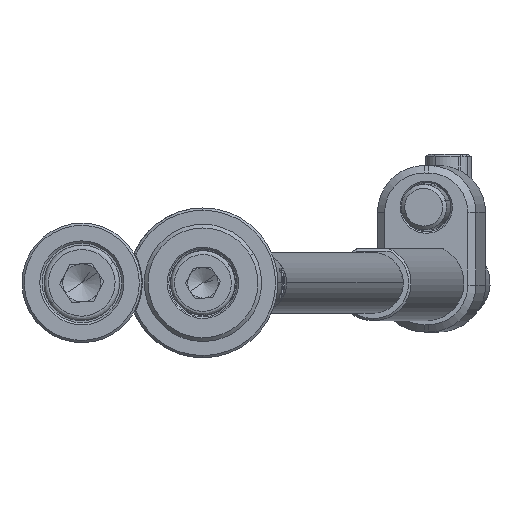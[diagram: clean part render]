
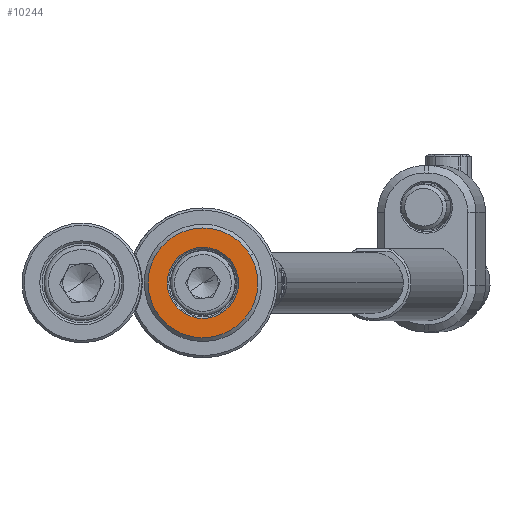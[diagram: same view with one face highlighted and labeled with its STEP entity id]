
A CAD part, front view. The second image highlights one B-rep face of the part: STEP entity #10244.
In plain terms, the highlighted planar face has unit normal (0, -1, 0).
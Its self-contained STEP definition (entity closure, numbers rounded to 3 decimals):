
#64 = ORIENTED_EDGE ( 'NONE', *, *, #7771, .T. ) ;
#124 = DIRECTION ( 'NONE',  ( -0.865, 0., -0.503 ) ) ;
#310 = CARTESIAN_POINT ( 'NONE',  ( 6.268, -4., 3.643 ) ) ;
#408 = DIRECTION ( 'NONE',  ( 0., 1., 0. ) ) ;
#848 = VERTEX_POINT ( 'NONE', #310 ) ;
#879 = DIRECTION ( 'NONE',  ( 0., -1., 0. ) ) ;
#1024 = ORIENTED_EDGE ( 'NONE', *, *, #6777, .T. ) ;
#1275 = DIRECTION ( 'NONE',  ( 0., -1., 0. ) ) ;
#1636 = CARTESIAN_POINT ( 'NONE',  ( 4.063, -4., 2.362 ) ) ;
#1667 = DIRECTION ( 'NONE',  ( -0.865, 0., -0.503 ) ) ;
#1732 = DIRECTION ( 'NONE',  ( 0., 1., 0. ) ) ;
#2550 = PLANE ( 'NONE',  #13818 ) ;
#2836 = DIRECTION ( 'NONE',  ( 0., 1., 0. ) ) ;
#3533 = FACE_OUTER_BOUND ( 'NONE', #8911, .T. ) ;
#3596 = AXIS2_PLACEMENT_3D ( 'NONE', #7095, #2836, #7170 ) ;
#4106 = CIRCLE ( 'NONE', #6167, 7.25 ) ;
#4526 = DIRECTION ( 'NONE',  ( -0.865, 0., -0.503 ) ) ;
#5126 = VERTEX_POINT ( 'NONE', #1636 ) ;
#6167 = AXIS2_PLACEMENT_3D ( 'NONE', #6947, #1275, #124 ) ;
#6777 = EDGE_CURVE ( 'NONE', #13548, #848, #8395, .T. ) ;
#6947 = CARTESIAN_POINT ( 'NONE',  ( 0., -4., 0. ) ) ;
#7071 = EDGE_CURVE ( 'NONE', #9311, #5126, #11481, .T. ) ;
#7095 = CARTESIAN_POINT ( 'NONE',  ( 0., -4., 0. ) ) ;
#7170 = DIRECTION ( 'NONE',  ( -0.865, 0., -0.503 ) ) ;
#7771 = EDGE_CURVE ( 'NONE', #5126, #9311, #9567, .T. ) ;
#8087 = CARTESIAN_POINT ( 'NONE',  ( -4.063, -4., -2.362 ) ) ;
#8395 = CIRCLE ( 'NONE', #10256, 7.25 ) ;
#8737 = EDGE_CURVE ( 'NONE', #848, #13548, #4106, .T. ) ;
#8911 = EDGE_LOOP ( 'NONE', ( #1024, #12105 ) ) ;
#9311 = VERTEX_POINT ( 'NONE', #8087 ) ;
#9408 = AXIS2_PLACEMENT_3D ( 'NONE', #11556, #1732, #12840 ) ;
#9567 = CIRCLE ( 'NONE', #3596, 4.7 ) ;
#10143 = FACE_BOUND ( 'NONE', #11772, .T. ) ;
#10195 = ORIENTED_EDGE ( 'NONE', *, *, #7071, .T. ) ;
#10216 = CARTESIAN_POINT ( 'NONE',  ( 2.261, -4., -3.891 ) ) ;
#10244 = ADVANCED_FACE ( 'NONE', ( #10143, #3533 ), #2550, .F. ) ;
#10256 = AXIS2_PLACEMENT_3D ( 'NONE', #11493, #879, #1667 ) ;
#11481 = CIRCLE ( 'NONE', #9408, 4.7 ) ;
#11493 = CARTESIAN_POINT ( 'NONE',  ( 0., -4., 0. ) ) ;
#11556 = CARTESIAN_POINT ( 'NONE',  ( 0., -4., 0. ) ) ;
#11621 = CARTESIAN_POINT ( 'NONE',  ( -6.268, -4., -3.643 ) ) ;
#11772 = EDGE_LOOP ( 'NONE', ( #64, #10195 ) ) ;
#12105 = ORIENTED_EDGE ( 'NONE', *, *, #8737, .T. ) ;
#12840 = DIRECTION ( 'NONE',  ( -0.865, 0., -0.503 ) ) ;
#13548 = VERTEX_POINT ( 'NONE', #11621 ) ;
#13818 = AXIS2_PLACEMENT_3D ( 'NONE', #10216, #408, #4526 ) ;
